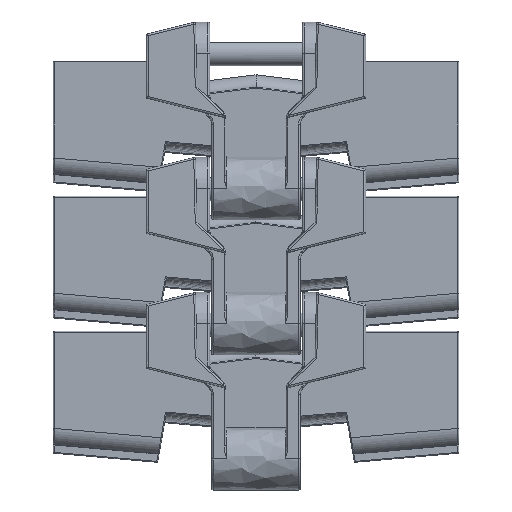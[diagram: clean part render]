
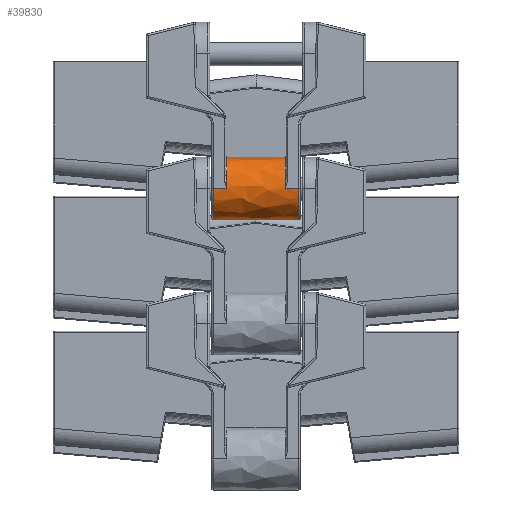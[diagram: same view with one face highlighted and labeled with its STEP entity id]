
A CAD part, front view. The second image highlights one B-rep face of the part: STEP entity #39830.
In plain terms, the highlighted free-form (B-spline) face has degree [2, 1] with [5, 2] control points.
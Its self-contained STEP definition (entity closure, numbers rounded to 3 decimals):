
#1436 = CARTESIAN_POINT ( 'NONE',  ( -8.25, -8.8, 8.8 ) ) ;
#1921 = EDGE_CURVE ( 'NONE', #13826, #134551, #58300, .T. ) ;
#3297 = FACE_OUTER_BOUND ( 'NONE', #111366, .T. ) ;
#3662 = CARTESIAN_POINT ( 'NONE',  ( 8.25, -17.6, 0. ) ) ;
#10223 = CARTESIAN_POINT ( 'NONE',  ( -12., -8.8, -8.8 ) ) ;
#12876 = EDGE_CURVE ( 'NONE', #134551, #45415, #119514, .T. ) ;
#13826 = VERTEX_POINT ( 'NONE', #138014 ) ;
#18721 = CARTESIAN_POINT ( 'NONE',  ( 14.4, -17.6, -8.8 ) ) ;
#19167 = CARTESIAN_POINT ( 'NONE',  ( 8.25, -17.6, 8.8 ) ) ;
#24757 = VERTEX_POINT ( 'NONE', #44540 ) ;
#29977 = CARTESIAN_POINT ( 'NONE',  ( 14.4, -17.6, 0. ) ) ;
#29992 = CARTESIAN_POINT ( 'NONE',  ( -12., -17.6, 0. ) ) ;
#31433 = ORIENTED_EDGE ( 'NONE', *, *, #79038, .T. ) ;
#36736 = ORIENTED_EDGE ( 'NONE', *, *, #37337, .T. ) ;
#37009 = CARTESIAN_POINT ( 'NONE',  ( -12., -8.8, -8.8 ) ) ;
#37122 = CARTESIAN_POINT ( 'NONE',  ( 12., -8.8, -8.8 ) ) ;
#37337 = EDGE_CURVE ( 'NONE', #24757, #142388, #117528, .T. ) ;
#37488 = CARTESIAN_POINT ( 'NONE',  ( 12., -17.6, 0. ) ) ;
#37596 = CARTESIAN_POINT ( 'NONE',  ( 12., -17.6, 0. ) ) ;
#38034 = ORIENTED_EDGE ( 'NONE', *, *, #95538, .T. ) ;
#39830 = ADVANCED_FACE ( 'NONE', ( #3297 ), #89605, .T. ) ;
#41290 = CARTESIAN_POINT ( 'NONE',  ( 14.4, -17.6, 8.8 ) ) ;
#42262 =( BOUNDED_CURVE ( )  B_SPLINE_CURVE ( 2, ( #37122, #104317, #37596 ),
 .UNSPECIFIED., .F., .F. ) 
 B_SPLINE_CURVE_WITH_KNOTS ( ( 3, 3 ),
 ( 0., 1. ),
 .UNSPECIFIED. ) 
 CURVE ( )  GEOMETRIC_REPRESENTATION_ITEM ( )  RATIONAL_B_SPLINE_CURVE ( ( 1., 0.707, 1. ) ) 
 REPRESENTATION_ITEM ( '' )  );
#44540 = CARTESIAN_POINT ( 'NONE',  ( -8.25, -8.8, 8.8 ) ) ;
#45415 = VERTEX_POINT ( 'NONE', #60438 ) ;
#46871 = B_SPLINE_CURVE_WITH_KNOTS ( 'NONE', 1,
 ( #108461, #29992 ),
 .UNSPECIFIED., .F., .F.,
 ( 2, 2 ),
 ( 0., 1. ),
 .UNSPECIFIED. ) ;
#47822 = ORIENTED_EDGE ( 'NONE', *, *, #120114, .T. ) ;
#50808 = ORIENTED_EDGE ( 'NONE', *, *, #12876, .T. ) ;
#52558 = CARTESIAN_POINT ( 'NONE',  ( 14.4, -8.8, 8.8 ) ) ;
#56841 = B_SPLINE_CURVE_WITH_KNOTS ( 'NONE', 1,
 ( #37488, #3662 ),
 .UNSPECIFIED., .F., .F.,
 ( 2, 2 ),
 ( 0., 1. ),
 .UNSPECIFIED. ) ;
#58079 = VERTEX_POINT ( 'NONE', #101098 ) ;
#58300 =( BOUNDED_CURVE ( )  B_SPLINE_CURVE ( 2, ( #70310, #59988, #37009 ),
 .UNSPECIFIED., .F., .F. ) 
 B_SPLINE_CURVE_WITH_KNOTS ( ( 3, 3 ),
 ( 0., 1. ),
 .UNSPECIFIED. ) 
 CURVE ( )  GEOMETRIC_REPRESENTATION_ITEM ( )  RATIONAL_B_SPLINE_CURVE ( ( 1., 0.707, 1. ) ) 
 REPRESENTATION_ITEM ( '' )  );
#59988 = CARTESIAN_POINT ( 'NONE',  ( -12., -17.6, -8.8 ) ) ;
#60438 = CARTESIAN_POINT ( 'NONE',  ( 12., -8.8, -8.8 ) ) ;
#67536 = CARTESIAN_POINT ( 'NONE',  ( 8.25, -8.8, 8.8 ) ) ;
#70310 = CARTESIAN_POINT ( 'NONE',  ( -12., -17.6, 0. ) ) ;
#74573 = CARTESIAN_POINT ( 'NONE',  ( 14.4, -8.8, -8.8 ) ) ;
#76758 = ORIENTED_EDGE ( 'NONE', *, *, #80340, .T. ) ;
#76815 = CARTESIAN_POINT ( 'NONE',  ( -8.25, -17.6, 0. ) ) ;
#79038 = EDGE_CURVE ( 'NONE', #134812, #24757, #101312, .T. ) ;
#80340 = EDGE_CURVE ( 'NONE', #142388, #13826, #46871, .T. ) ;
#85859 = CARTESIAN_POINT ( 'NONE',  ( -14.4, -8.8, -8.8 ) ) ;
#89605 =( BOUNDED_SURFACE ( )  B_SPLINE_SURFACE ( 2, 1, ( 
 ( #74573, #85859 ),
 ( #18721, #97149 ),
 ( #29977, #108448 ),
 ( #41290, #119750 ),
 ( #52558, #130995 ) ),
 .UNSPECIFIED., .F., .F., .F. ) 
 B_SPLINE_SURFACE_WITH_KNOTS ( ( 3, 2, 3 ),
 ( 2, 2 ),
 ( 1.571, 3.142, 4.712 ),
 ( 0., 28.801 ),
 .UNSPECIFIED. ) 
 GEOMETRIC_REPRESENTATION_ITEM ( )  RATIONAL_B_SPLINE_SURFACE ( (
 ( 1., 1.),
 ( 0.707, 0.707),
 ( 1., 1.),
 ( 0.707, 0.707),
 ( 1., 1.) ) ) 
 REPRESENTATION_ITEM ( '' )  SURFACE ( )  );
#91197 = CARTESIAN_POINT ( 'NONE',  ( -8.25, -17.6, 0. ) ) ;
#95538 = EDGE_CURVE ( 'NONE', #99934, #58079, #56841, .T. ) ;
#97149 = CARTESIAN_POINT ( 'NONE',  ( -14.4, -17.6, -8.8 ) ) ;
#97628 = CARTESIAN_POINT ( 'NONE',  ( 8.25, -17.6, 0. ) ) ;
#98114 = CARTESIAN_POINT ( 'NONE',  ( 8.25, -8.8, 8.8 ) ) ;
#99934 = VERTEX_POINT ( 'NONE', #134042 ) ;
#101098 = CARTESIAN_POINT ( 'NONE',  ( 8.25, -17.6, 0. ) ) ;
#101312 = B_SPLINE_CURVE_WITH_KNOTS ( 'NONE', 1,
 ( #104325, #126394 ),
 .UNSPECIFIED., .F., .F.,
 ( 2, 2 ),
 ( 0., 1. ),
 .UNSPECIFIED. ) ;
#101514 = CARTESIAN_POINT ( 'NONE',  ( -8.25, -17.6, 8.8 ) ) ;
#102486 = ORIENTED_EDGE ( 'NONE', *, *, #1921, .T. ) ;
#104317 = CARTESIAN_POINT ( 'NONE',  ( 12., -17.6, -8.8 ) ) ;
#104325 = CARTESIAN_POINT ( 'NONE',  ( 8.25, -8.8, 8.8 ) ) ;
#108448 = CARTESIAN_POINT ( 'NONE',  ( -14.4, -17.6, 0. ) ) ;
#108461 = CARTESIAN_POINT ( 'NONE',  ( -8.25, -17.6, 0. ) ) ;
#109498 =( BOUNDED_CURVE ( )  B_SPLINE_CURVE ( 2, ( #97628, #19167, #98114 ),
 .UNSPECIFIED., .F., .F. ) 
 B_SPLINE_CURVE_WITH_KNOTS ( ( 3, 3 ),
 ( 0., 1. ),
 .UNSPECIFIED. ) 
 CURVE ( )  GEOMETRIC_REPRESENTATION_ITEM ( )  RATIONAL_B_SPLINE_CURVE ( ( 1., 0.707, 1. ) ) 
 REPRESENTATION_ITEM ( '' )  );
#111366 = EDGE_LOOP ( 'NONE', ( #76758, #102486, #50808, #47822, #38034, #115761, #31433, #36736 ) ) ;
#115566 = CARTESIAN_POINT ( 'NONE',  ( 12., -8.8, -8.8 ) ) ;
#115761 = ORIENTED_EDGE ( 'NONE', *, *, #133797, .T. ) ;
#117528 =( BOUNDED_CURVE ( )  B_SPLINE_CURVE ( 2, ( #1436, #101514, #91197 ),
 .UNSPECIFIED., .F., .F. ) 
 B_SPLINE_CURVE_WITH_KNOTS ( ( 3, 3 ),
 ( 0., 1. ),
 .UNSPECIFIED. ) 
 CURVE ( )  GEOMETRIC_REPRESENTATION_ITEM ( )  RATIONAL_B_SPLINE_CURVE ( ( 1., 0.707, 1. ) ) 
 REPRESENTATION_ITEM ( '' )  );
#119514 = B_SPLINE_CURVE_WITH_KNOTS ( 'NONE', 1,
 ( #126372, #115566 ),
 .UNSPECIFIED., .F., .F.,
 ( 2, 2 ),
 ( 0., 1. ),
 .UNSPECIFIED. ) ;
#119750 = CARTESIAN_POINT ( 'NONE',  ( -14.4, -17.6, 8.8 ) ) ;
#120114 = EDGE_CURVE ( 'NONE', #45415, #99934, #42262, .T. ) ;
#126372 = CARTESIAN_POINT ( 'NONE',  ( -12., -8.8, -8.8 ) ) ;
#126394 = CARTESIAN_POINT ( 'NONE',  ( -8.25, -8.8, 8.8 ) ) ;
#130995 = CARTESIAN_POINT ( 'NONE',  ( -14.4, -8.8, 8.8 ) ) ;
#133797 = EDGE_CURVE ( 'NONE', #58079, #134812, #109498, .T. ) ;
#134042 = CARTESIAN_POINT ( 'NONE',  ( 12., -17.6, 0. ) ) ;
#134551 = VERTEX_POINT ( 'NONE', #10223 ) ;
#134812 = VERTEX_POINT ( 'NONE', #67536 ) ;
#138014 = CARTESIAN_POINT ( 'NONE',  ( -12., -17.6, 0. ) ) ;
#142388 = VERTEX_POINT ( 'NONE', #76815 ) ;
